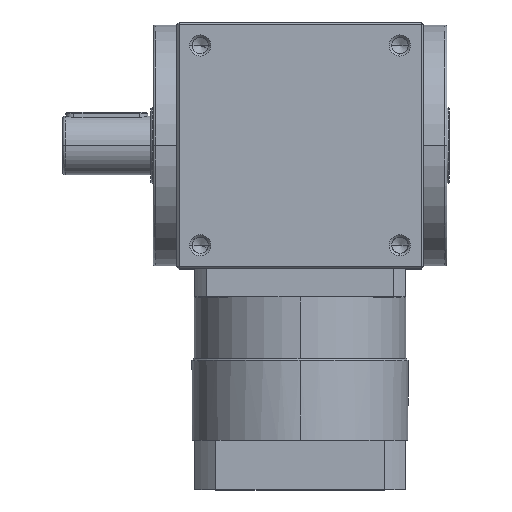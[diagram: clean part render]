
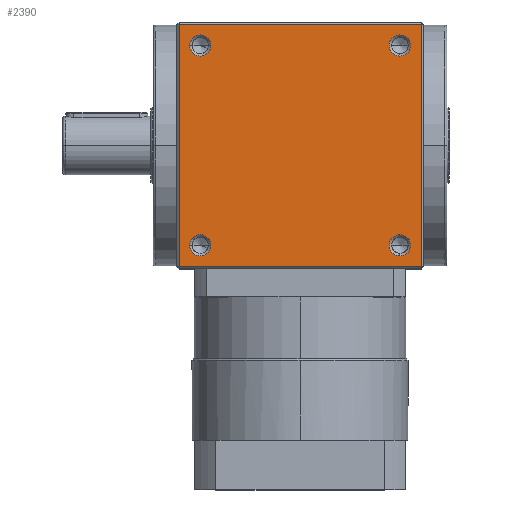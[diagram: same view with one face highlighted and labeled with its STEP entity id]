
A CAD part, top view. The second image highlights one B-rep face of the part: STEP entity #2390.
In plain terms, the highlighted planar face has unit normal (0, 0, 1).
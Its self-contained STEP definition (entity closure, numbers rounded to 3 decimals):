
#49 = FACE_BOUND ( 'NONE', #5399, .T. ) ;
#226 = FACE_BOUND ( 'NONE', #9091, .T. ) ;
#241 = FACE_BOUND ( 'NONE', #7231, .T. ) ;
#399 = AXIS2_PLACEMENT_3D ( 'NONE', #3202, #3090, #3052 ) ;
#568 = CIRCLE ( 'NONE', #605, 9. ) ;
#605 = AXIS2_PLACEMENT_3D ( 'NONE', #3792, #3699, #3657 ) ;
#611 = DIRECTION ( 'NONE',  ( 0., -1., 0. ) ) ;
#947 = FACE_BOUND ( 'NONE', #6075, .T. ) ;
#1047 = VERTEX_POINT ( 'NONE', #1969 ) ;
#1050 = DIRECTION ( 'NONE',  ( 0., 1., 0. ) ) ;
#1674 = CARTESIAN_POINT ( 'NONE',  ( -94., 85., 105. ) ) ;
#1683 = VERTEX_POINT ( 'NONE', #4289 ) ;
#1806 = AXIS2_PLACEMENT_3D ( 'NONE', #4907, #11626, #5859 ) ;
#1869 = EDGE_CURVE ( 'NONE', #1683, #9810, #11502, .T. ) ;
#1948 = CARTESIAN_POINT ( 'NONE',  ( -103., 0., 105. ) ) ;
#1969 = CARTESIAN_POINT ( 'NONE',  ( -94., -85., 105. ) ) ;
#2085 = AXIS2_PLACEMENT_3D ( 'NONE', #4394, #11128, #5364 ) ;
#2234 = DIRECTION ( 'NONE',  ( 0., 0., 1. ) ) ;
#2299 = DIRECTION ( 'NONE',  ( 0., 0., 1. ) ) ;
#2307 = CARTESIAN_POINT ( 'NONE',  ( 0., -103., 105. ) ) ;
#2337 = CARTESIAN_POINT ( 'NONE',  ( 103., 103., 105. ) ) ;
#2378 = EDGE_CURVE ( 'NONE', #6793, #8663, #568, .T. ) ;
#2390 = ADVANCED_FACE ( 'NONE', ( #947, #226, #241, #49, #6788 ), #4066, .F. ) ;
#2478 = CIRCLE ( 'NONE', #2085, 9. ) ;
#2556 = CARTESIAN_POINT ( 'NONE',  ( 103., -103., 105. ) ) ;
#3052 = DIRECTION ( 'NONE',  ( -1., 0., 0. ) ) ;
#3066 = AXIS2_PLACEMENT_3D ( 'NONE', #8128, #2299, #9046 ) ;
#3090 = DIRECTION ( 'NONE',  ( 0., 0., -1. ) ) ;
#3145 = CIRCLE ( 'NONE', #8717, 9. ) ;
#3202 = CARTESIAN_POINT ( 'NONE',  ( 0., 0., 105. ) ) ;
#3275 = DIRECTION ( 'NONE',  ( -1., 0., 0. ) ) ;
#3341 = ORIENTED_EDGE ( 'NONE', *, *, #7439, .F. ) ;
#3488 = ORIENTED_EDGE ( 'NONE', *, *, #7454, .F. ) ;
#3649 = VERTEX_POINT ( 'NONE', #2337 ) ;
#3657 = DIRECTION ( 'NONE',  ( 0., -1., 0. ) ) ;
#3689 = ORIENTED_EDGE ( 'NONE', *, *, #6819, .F. ) ;
#3699 = DIRECTION ( 'NONE',  ( 0., 0., 1. ) ) ;
#3763 = ORIENTED_EDGE ( 'NONE', *, *, #10994, .F. ) ;
#3792 = CARTESIAN_POINT ( 'NONE',  ( 85., 85., 105. ) ) ;
#3843 = DIRECTION ( 'NONE',  ( 0., -1., 0. ) ) ;
#4066 = PLANE ( 'NONE',  #399 ) ;
#4289 = CARTESIAN_POINT ( 'NONE',  ( -103., -103., 105. ) ) ;
#4394 = CARTESIAN_POINT ( 'NONE',  ( -85., 85., 105. ) ) ;
#4505 = ORIENTED_EDGE ( 'NONE', *, *, #2378, .F. ) ;
#4508 = CARTESIAN_POINT ( 'NONE',  ( 85., -85., 105. ) ) ;
#4635 = EDGE_CURVE ( 'NONE', #6190, #6053, #3145, .T. ) ;
#4743 = CARTESIAN_POINT ( 'NONE',  ( -103., 103., 105. ) ) ;
#4907 = CARTESIAN_POINT ( 'NONE',  ( -85., -85., 105. ) ) ;
#4953 = LINE ( 'NONE', #8645, #7799 ) ;
#5364 = DIRECTION ( 'NONE',  ( 1., 0., 0. ) ) ;
#5399 = EDGE_LOOP ( 'NONE', ( #5799, #10006 ) ) ;
#5489 = DIRECTION ( 'NONE',  ( 0., -1., 0. ) ) ;
#5516 = CARTESIAN_POINT ( 'NONE',  ( -85., -85., 105. ) ) ;
#5799 = ORIENTED_EDGE ( 'NONE', *, *, #11498, .F. ) ;
#5859 = DIRECTION ( 'NONE',  ( 1., 0., 0. ) ) ;
#6053 = VERTEX_POINT ( 'NONE', #8007 ) ;
#6075 = EDGE_LOOP ( 'NONE', ( #3488, #9708 ) ) ;
#6190 = VERTEX_POINT ( 'NONE', #7198 ) ;
#6192 = AXIS2_PLACEMENT_3D ( 'NONE', #12268, #6504, #611 ) ;
#6367 = AXIS2_PLACEMENT_3D ( 'NONE', #5516, #12226, #6462 ) ;
#6455 = ORIENTED_EDGE ( 'NONE', *, *, #11852, .F. ) ;
#6462 = DIRECTION ( 'NONE',  ( 1., 0., 0. ) ) ;
#6504 = DIRECTION ( 'NONE',  ( 0., 0., 1. ) ) ;
#6520 = VECTOR ( 'NONE', #12263, 1000. ) ;
#6672 = LINE ( 'NONE', #8479, #6520 ) ;
#6788 = FACE_OUTER_BOUND ( 'NONE', #7422, .T. ) ;
#6793 = VERTEX_POINT ( 'NONE', #7103 ) ;
#6819 = EDGE_CURVE ( 'NONE', #12448, #1683, #9867, .T. ) ;
#6975 = CIRCLE ( 'NONE', #6192, 9. ) ;
#7021 = EDGE_CURVE ( 'NONE', #3649, #9810, #6672, .T. ) ;
#7103 = CARTESIAN_POINT ( 'NONE',  ( 85., 94., 105. ) ) ;
#7198 = CARTESIAN_POINT ( 'NONE',  ( 85., -76., 105. ) ) ;
#7231 = EDGE_LOOP ( 'NONE', ( #3763, #4505 ) ) ;
#7422 = EDGE_LOOP ( 'NONE', ( #10718, #11691, #11672, #3689 ) ) ;
#7439 = EDGE_CURVE ( 'NONE', #1047, #10852, #9809, .T. ) ;
#7454 = EDGE_CURVE ( 'NONE', #6053, #6190, #6975, .T. ) ;
#7495 = AXIS2_PLACEMENT_3D ( 'NONE', #8060, #2234, #8982 ) ;
#7630 = VERTEX_POINT ( 'NONE', #9818 ) ;
#7689 = EDGE_CURVE ( 'NONE', #9445, #7630, #8445, .T. ) ;
#7799 = VECTOR ( 'NONE', #3843, 1000. ) ;
#7872 = CARTESIAN_POINT ( 'NONE',  ( 85., 76., 105. ) ) ;
#8007 = CARTESIAN_POINT ( 'NONE',  ( 85., -94., 105. ) ) ;
#8060 = CARTESIAN_POINT ( 'NONE',  ( 85., 85., 105. ) ) ;
#8128 = CARTESIAN_POINT ( 'NONE',  ( -85., 85., 105. ) ) ;
#8445 = CIRCLE ( 'NONE', #3066, 9. ) ;
#8479 = CARTESIAN_POINT ( 'NONE',  ( 0., 103., 105. ) ) ;
#8645 = CARTESIAN_POINT ( 'NONE',  ( 103., 0., 105. ) ) ;
#8663 = VERTEX_POINT ( 'NONE', #7872 ) ;
#8717 = AXIS2_PLACEMENT_3D ( 'NONE', #4508, #11237, #5489 ) ;
#8982 = DIRECTION ( 'NONE',  ( 0., -1., 0. ) ) ;
#9046 = DIRECTION ( 'NONE',  ( 1., 0., 0. ) ) ;
#9091 = EDGE_LOOP ( 'NONE', ( #6455, #3341 ) ) ;
#9445 = VERTEX_POINT ( 'NONE', #1674 ) ;
#9708 = ORIENTED_EDGE ( 'NONE', *, *, #4635, .F. ) ;
#9789 = CARTESIAN_POINT ( 'NONE',  ( -76., -85., 105. ) ) ;
#9809 = CIRCLE ( 'NONE', #6367, 9. ) ;
#9810 = VERTEX_POINT ( 'NONE', #4743 ) ;
#9818 = CARTESIAN_POINT ( 'NONE',  ( -76., 85., 105. ) ) ;
#9839 = CIRCLE ( 'NONE', #1806, 9. ) ;
#9867 = LINE ( 'NONE', #2307, #9971 ) ;
#9971 = VECTOR ( 'NONE', #3275, 1000. ) ;
#10006 = ORIENTED_EDGE ( 'NONE', *, *, #7689, .F. ) ;
#10480 = CIRCLE ( 'NONE', #7495, 9. ) ;
#10673 = EDGE_CURVE ( 'NONE', #3649, #12448, #4953, .T. ) ;
#10718 = ORIENTED_EDGE ( 'NONE', *, *, #10673, .F. ) ;
#10852 = VERTEX_POINT ( 'NONE', #9789 ) ;
#10994 = EDGE_CURVE ( 'NONE', #8663, #6793, #10480, .T. ) ;
#11128 = DIRECTION ( 'NONE',  ( 0., 0., 1. ) ) ;
#11237 = DIRECTION ( 'NONE',  ( 0., 0., 1. ) ) ;
#11498 = EDGE_CURVE ( 'NONE', #7630, #9445, #2478, .T. ) ;
#11502 = LINE ( 'NONE', #1948, #11670 ) ;
#11626 = DIRECTION ( 'NONE',  ( 0., 0., 1. ) ) ;
#11670 = VECTOR ( 'NONE', #1050, 1000. ) ;
#11672 = ORIENTED_EDGE ( 'NONE', *, *, #1869, .F. ) ;
#11691 = ORIENTED_EDGE ( 'NONE', *, *, #7021, .T. ) ;
#11852 = EDGE_CURVE ( 'NONE', #10852, #1047, #9839, .T. ) ;
#12226 = DIRECTION ( 'NONE',  ( 0., 0., 1. ) ) ;
#12263 = DIRECTION ( 'NONE',  ( -1., 0., 0. ) ) ;
#12268 = CARTESIAN_POINT ( 'NONE',  ( 85., -85., 105. ) ) ;
#12448 = VERTEX_POINT ( 'NONE', #2556 ) ;
